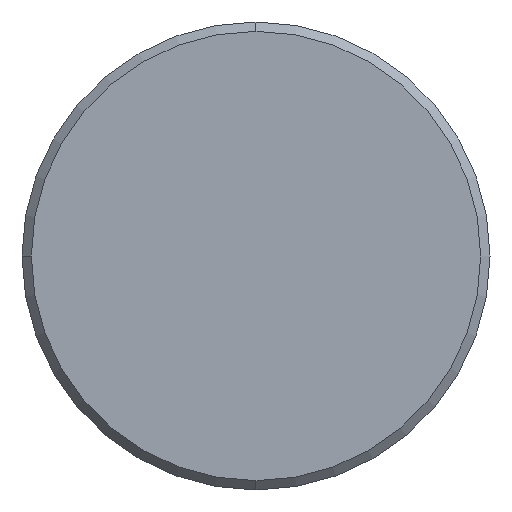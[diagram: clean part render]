
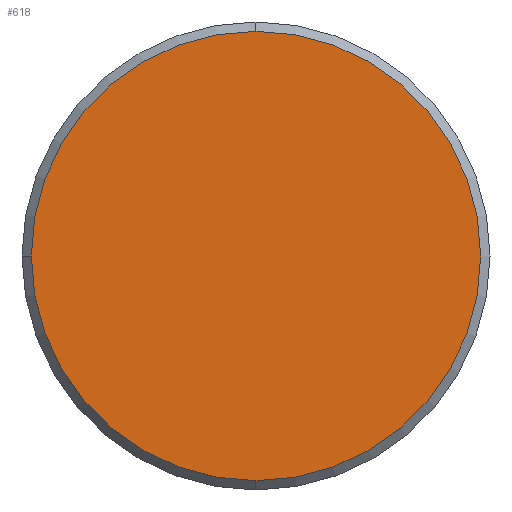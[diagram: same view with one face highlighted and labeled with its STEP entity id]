
A CAD part, left-side view. The second image highlights one B-rep face of the part: STEP entity #618.
In plain terms, the highlighted planar face has unit normal (-1, 0, 0).
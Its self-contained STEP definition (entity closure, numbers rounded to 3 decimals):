
#26 = DIRECTION ( 'NONE',  ( 0., 0., -1. ) ) ;
#27 = DIRECTION ( 'NONE',  ( 1., 0., 0. ) ) ;
#28 = CARTESIAN_POINT ( 'NONE',  ( 0., -12.65, 12.65 ) ) ;
#30 = PLANE ( 'NONE',  #486 ) ;
#34 = FACE_OUTER_BOUND ( 'NONE', #258, .T. ) ;
#138 = VERTEX_POINT ( 'NONE', #789 ) ;
#163 = VERTEX_POINT ( 'NONE', #773 ) ;
#192 = VERTEX_POINT ( 'NONE', #763 ) ;
#258 = EDGE_LOOP ( 'NONE', ( #868, #869, #826 ) ) ;
#288 = DIRECTION ( 'NONE',  ( 0., 1., 0. ) ) ;
#289 = CARTESIAN_POINT ( 'NONE',  ( 0., 0., 0. ) ) ;
#358 = CARTESIAN_POINT ( 'NONE',  ( 0., 0., 0. ) ) ;
#362 = DIRECTION ( 'NONE',  ( 1., 0., 0. ) ) ;
#374 = DIRECTION ( 'NONE',  ( 1., 0., 0. ) ) ;
#375 = DIRECTION ( 'NONE',  ( 0., 1., 0. ) ) ;
#439 = AXIS2_PLACEMENT_3D ( 'NONE', #358, #362, #288 ) ;
#449 = CIRCLE ( 'NONE', #439, 12. ) ;
#471 = CIRCLE ( 'NONE', #473, 12. ) ;
#473 = AXIS2_PLACEMENT_3D ( 'NONE', #289, #374, #375 ) ;
#486 = AXIS2_PLACEMENT_3D ( 'NONE', #28, #27, #26 ) ;
#503 = EDGE_CURVE ( 'NONE', #163, #192, #471, .T. ) ;
#506 = EDGE_CURVE ( 'NONE', #138, #163, #449, .T. ) ;
#566 = EDGE_CURVE ( 'NONE', #192, #138, #673, .T. ) ;
#618 = ADVANCED_FACE ( 'NONE', ( #34 ), #30, .F. ) ;
#673 = CIRCLE ( 'NONE', #709, 12. ) ;
#709 = AXIS2_PLACEMENT_3D ( 'NONE', #1143, #1041, #1082 ) ;
#763 = CARTESIAN_POINT ( 'NONE',  ( 0., 0., 12. ) ) ;
#773 = CARTESIAN_POINT ( 'NONE',  ( 0., 12., 0. ) ) ;
#789 = CARTESIAN_POINT ( 'NONE',  ( 0., 0., -12. ) ) ;
#826 = ORIENTED_EDGE ( 'NONE', *, *, #503, .F. ) ;
#868 = ORIENTED_EDGE ( 'NONE', *, *, #506, .F. ) ;
#869 = ORIENTED_EDGE ( 'NONE', *, *, #566, .F. ) ;
#1041 = DIRECTION ( 'NONE',  ( 1., 0., 0. ) ) ;
#1082 = DIRECTION ( 'NONE',  ( 0., 0., -1. ) ) ;
#1143 = CARTESIAN_POINT ( 'NONE',  ( 0., 0., 0. ) ) ;
